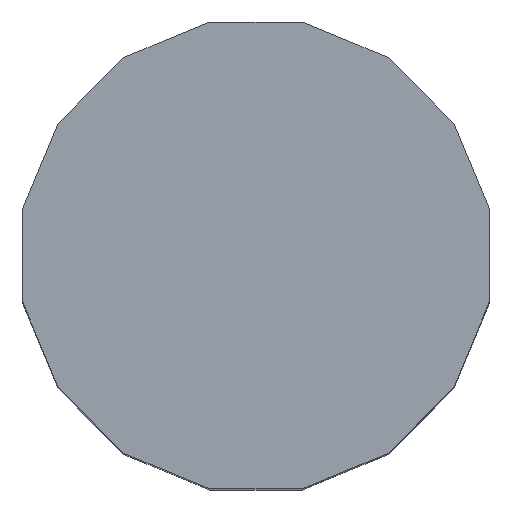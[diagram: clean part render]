
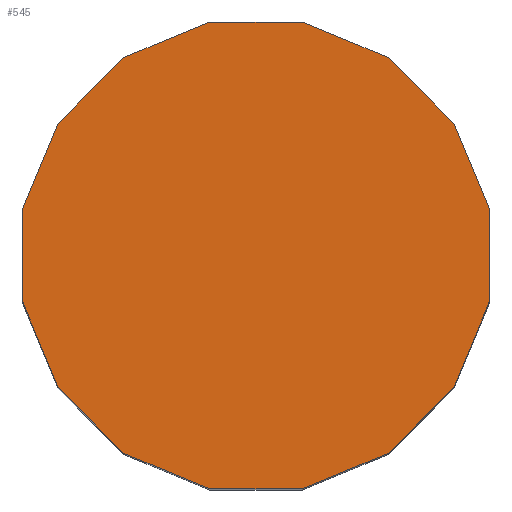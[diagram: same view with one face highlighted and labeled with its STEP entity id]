
A CAD part, top view. The second image highlights one B-rep face of the part: STEP entity #545.
In plain terms, the highlighted planar face has unit normal (0, 0, 1).
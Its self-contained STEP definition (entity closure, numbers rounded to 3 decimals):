
#143=CARTESIAN_POINT('',(4.585,-23.048,67.5));
#144=VERTEX_POINT('',#143);
#151=CARTESIAN_POINT('',(-4.585,-23.048,67.5));
#152=VERTEX_POINT('',#151);
#153=CARTESIAN_POINT('',(-4.585,-23.048,67.5));
#154=DIRECTION('',(1.0,0.0,0.0));
#155=VECTOR('',#154,9.169);
#156=LINE('',#153,#155);
#157=EDGE_CURVE('',#152,#144,#156,.T.);
#175=CARTESIAN_POINT('',(-13.056,-19.54,67.5));
#176=VERTEX_POINT('',#175);
#177=CARTESIAN_POINT('',(-13.056,-19.54,67.5));
#178=DIRECTION('',(0.924,-0.383,0.0));
#179=VECTOR('',#178,9.169);
#180=LINE('',#177,#179);
#181=EDGE_CURVE('',#176,#152,#180,.T.);
#199=CARTESIAN_POINT('',(-19.54,-13.056,67.5));
#200=VERTEX_POINT('',#199);
#201=CARTESIAN_POINT('',(-19.54,-13.056,67.5));
#202=DIRECTION('',(0.707,-0.707,0.0));
#203=VECTOR('',#202,9.169);
#204=LINE('',#201,#203);
#205=EDGE_CURVE('',#200,#176,#204,.T.);
#223=CARTESIAN_POINT('',(-23.048,-4.585,67.5));
#224=VERTEX_POINT('',#223);
#225=CARTESIAN_POINT('',(-23.048,-4.585,67.5));
#226=DIRECTION('',(0.383,-0.924,0.0));
#227=VECTOR('',#226,9.169);
#228=LINE('',#225,#227);
#229=EDGE_CURVE('',#224,#200,#228,.T.);
#247=CARTESIAN_POINT('',(-23.048,4.585,67.5));
#248=VERTEX_POINT('',#247);
#249=CARTESIAN_POINT('',(-23.048,4.585,67.5));
#250=DIRECTION('',(0.0,-1.0,0.0));
#251=VECTOR('',#250,9.169);
#252=LINE('',#249,#251);
#253=EDGE_CURVE('',#248,#224,#252,.T.);
#271=CARTESIAN_POINT('',(-19.54,13.056,67.5));
#272=VERTEX_POINT('',#271);
#273=CARTESIAN_POINT('',(-19.54,13.056,67.5));
#274=DIRECTION('',(-0.383,-0.924,0.0));
#275=VECTOR('',#274,9.169);
#276=LINE('',#273,#275);
#277=EDGE_CURVE('',#272,#248,#276,.T.);
#295=CARTESIAN_POINT('',(-13.056,19.54,67.5));
#296=VERTEX_POINT('',#295);
#297=CARTESIAN_POINT('',(-13.056,19.54,67.5));
#298=DIRECTION('',(-0.707,-0.707,0.0));
#299=VECTOR('',#298,9.169);
#300=LINE('',#297,#299);
#301=EDGE_CURVE('',#296,#272,#300,.T.);
#319=CARTESIAN_POINT('',(-4.585,23.048,67.5));
#320=VERTEX_POINT('',#319);
#321=CARTESIAN_POINT('',(-4.585,23.048,67.5));
#322=DIRECTION('',(-0.924,-0.383,0.0));
#323=VECTOR('',#322,9.169);
#324=LINE('',#321,#323);
#325=EDGE_CURVE('',#320,#296,#324,.T.);
#343=CARTESIAN_POINT('',(4.585,23.048,67.5));
#344=VERTEX_POINT('',#343);
#345=CARTESIAN_POINT('',(4.585,23.048,67.5));
#346=DIRECTION('',(-1.0,0.0,0.0));
#347=VECTOR('',#346,9.169);
#348=LINE('',#345,#347);
#349=EDGE_CURVE('',#344,#320,#348,.T.);
#367=CARTESIAN_POINT('',(13.056,19.54,67.5));
#368=VERTEX_POINT('',#367);
#369=CARTESIAN_POINT('',(13.056,19.54,67.5));
#370=DIRECTION('',(-0.924,0.383,0.0));
#371=VECTOR('',#370,9.169);
#372=LINE('',#369,#371);
#373=EDGE_CURVE('',#368,#344,#372,.T.);
#391=CARTESIAN_POINT('',(19.54,13.056,67.5));
#392=VERTEX_POINT('',#391);
#393=CARTESIAN_POINT('',(19.54,13.056,67.5));
#394=DIRECTION('',(-0.707,0.707,0.0));
#395=VECTOR('',#394,9.169);
#396=LINE('',#393,#395);
#397=EDGE_CURVE('',#392,#368,#396,.T.);
#415=CARTESIAN_POINT('',(23.048,4.585,67.5));
#416=VERTEX_POINT('',#415);
#417=CARTESIAN_POINT('',(23.048,4.585,67.5));
#418=DIRECTION('',(-0.383,0.924,0.0));
#419=VECTOR('',#418,9.169);
#420=LINE('',#417,#419);
#421=EDGE_CURVE('',#416,#392,#420,.T.);
#439=CARTESIAN_POINT('',(23.048,-4.585,67.5));
#440=VERTEX_POINT('',#439);
#441=CARTESIAN_POINT('',(23.048,-4.585,67.5));
#442=DIRECTION('',(0.0,1.0,0.0));
#443=VECTOR('',#442,9.169);
#444=LINE('',#441,#443);
#445=EDGE_CURVE('',#440,#416,#444,.T.);
#463=CARTESIAN_POINT('',(19.54,-13.056,67.5));
#464=VERTEX_POINT('',#463);
#465=CARTESIAN_POINT('',(19.54,-13.056,67.5));
#466=DIRECTION('',(0.383,0.924,0.0));
#467=VECTOR('',#466,9.169);
#468=LINE('',#465,#467);
#469=EDGE_CURVE('',#464,#440,#468,.T.);
#487=CARTESIAN_POINT('',(13.056,-19.54,67.5));
#488=VERTEX_POINT('',#487);
#489=CARTESIAN_POINT('',(13.056,-19.54,67.5));
#490=DIRECTION('',(0.707,0.707,0.0));
#491=VECTOR('',#490,9.169);
#492=LINE('',#489,#491);
#493=EDGE_CURVE('',#488,#464,#492,.T.);
#511=CARTESIAN_POINT('',(4.585,-23.048,67.5));
#512=DIRECTION('',(0.924,0.383,0.0));
#513=VECTOR('',#512,9.169);
#514=LINE('',#511,#513);
#515=EDGE_CURVE('',#144,#488,#514,.T.);
#522=CARTESIAN_POINT('',(-25.353,-25.353,67.5));
#523=DIRECTION('',(0.0,0.0,1.0));
#524=DIRECTION('',(1.0,0.0,0.0));
#525=AXIS2_PLACEMENT_3D('',#522,#523,#524);
#526=PLANE('',#525);
#527=ORIENTED_EDGE('',*,*,#515,.T.);
#528=ORIENTED_EDGE('',*,*,#493,.T.);
#529=ORIENTED_EDGE('',*,*,#469,.T.);
#530=ORIENTED_EDGE('',*,*,#445,.T.);
#531=ORIENTED_EDGE('',*,*,#421,.T.);
#532=ORIENTED_EDGE('',*,*,#397,.T.);
#533=ORIENTED_EDGE('',*,*,#373,.T.);
#534=ORIENTED_EDGE('',*,*,#349,.T.);
#535=ORIENTED_EDGE('',*,*,#325,.T.);
#536=ORIENTED_EDGE('',*,*,#301,.T.);
#537=ORIENTED_EDGE('',*,*,#277,.T.);
#538=ORIENTED_EDGE('',*,*,#253,.T.);
#539=ORIENTED_EDGE('',*,*,#229,.T.);
#540=ORIENTED_EDGE('',*,*,#205,.T.);
#541=ORIENTED_EDGE('',*,*,#181,.T.);
#542=ORIENTED_EDGE('',*,*,#157,.T.);
#543=EDGE_LOOP('',(#527,#528,#529,#530,#531,#532,#533,#534,#535,#536,#537,#538,#539,#540,#541,#542));
#544=FACE_OUTER_BOUND('',#543,.T.);
#545=ADVANCED_FACE('',(#544),#526,.T.);
